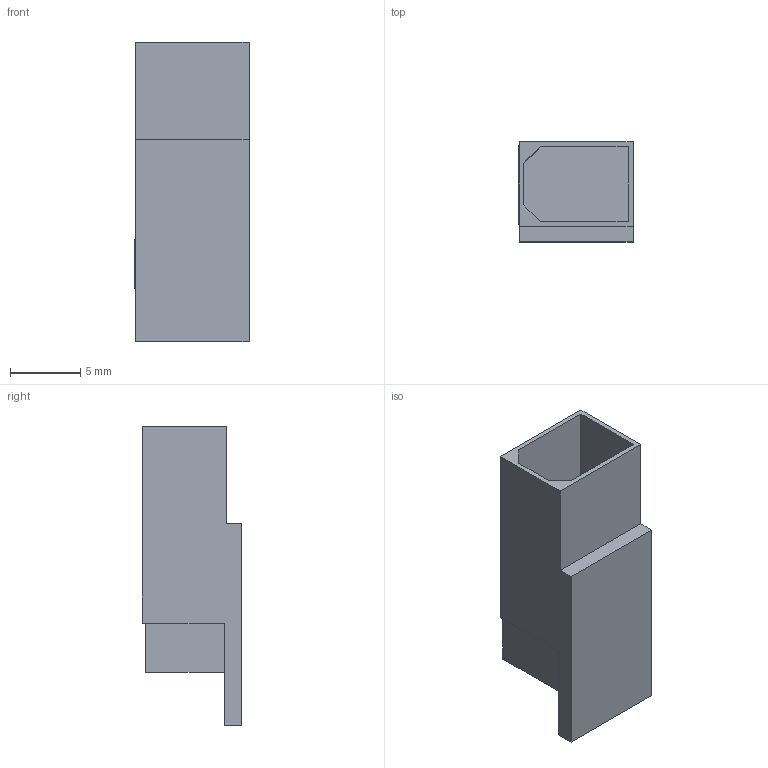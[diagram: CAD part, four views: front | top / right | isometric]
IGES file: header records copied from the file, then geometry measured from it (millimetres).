
Start section:  PTC IGES file: j3bs-cn8.igs
Global section: file name: j3bs-cn8.igs; native system: Pro/ENGINEER by Parametric Technology Corporation; preprocessor: 2006420; author: JE18792; organization: Unknown; date: 20101129.152227; units: millimetre
Bounding box: 8.11 x 7.1 x 21.3 mm (x, y, z)
Volume: 423.5 mm3; surface area: 998.7 mm2
Topology: 1 solids, 1 shells, 30 faces, 79 edges, 52 vertices
Faces by surface type: bspline 30
